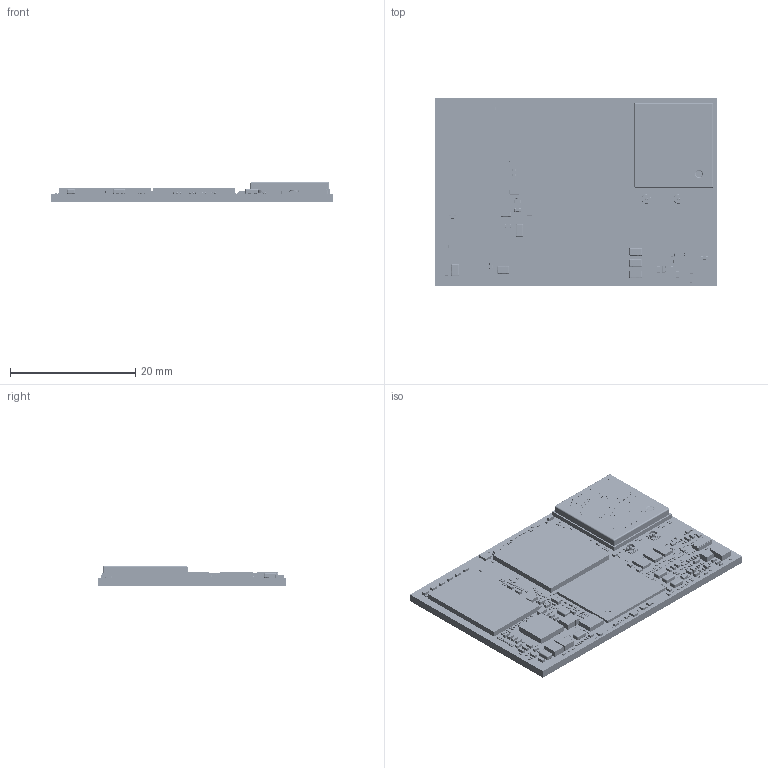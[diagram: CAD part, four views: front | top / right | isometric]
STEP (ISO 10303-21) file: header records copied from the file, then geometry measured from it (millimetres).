
FILE_DESCRIPTION(('Open CASCADE Model'),'2;1');
FILE_NAME('Open CASCADE Shape Model','2026-04-22T12:34:54',('Author'),( 'Open CASCADE'),'Open CASCADE STEP processor 7.5','Open CASCADE 7.5' ,'Unknown');
FILE_SCHEMA(('AUTOMOTIVE_DESIGN { 1 0 10303 214 1 1 1 1 }'));
Length unit declared in the file: millimetre
Products named in the file (587): PCB; Board; Open CASCADE STEP translator 7.5 2.1.1; C166; CAP0402; C165; U7; 453-00134; 940-00253; 750-03229___; 110-00693_CS-DOC-000012673(HW REV.:Q2.2); J5; c-2334884-1-a2-3d; J4; C194; CAP_CL02_SAM; C193; C192; R167; 01005_PAN; D1; 8263743216; R166; R125; Q12; CST3C_z90; Component1; Component2; Component3; Component4; R165; R164; R163; R162; R161; R160; R152; R151; R148; R146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
Assembly tree (954 placements, depth 5):
  PCB
    Board
      Open CASCADE STEP translator 7.5 2.1.1
    C166
      CAP0402
    C165
      CAP0402
    U7
      453-00134
        940-00253
          750-03229___
          110-00693_CS-DOC-000012673(HW REV.:Q2.2)
    J5
      c-2334884-1-a2-3d
    J4
      c-2334884-1-a2-3d
    C194
      CAP_CL02_SAM
    C193
      CAP_CL02_SAM
    C192
      CAP_CL02_SAM
    R167
      01005_PAN
    D1
      8263743216
    R166
      01005_PAN
    R125
      01005_PAN
    Q12
      CST3C_z90
        Component1
        Component2
        Component3
        Component4
    R165
      01005_PAN
    R164
      01005_PAN
    R163
      01005_PAN
    R162
      01005_PAN
    R161
      01005_PAN
    R160
      01005_PAN
    R152
      01005_PAN
    R151
      01005_PAN
    R148
      01005_PAN
    R146
      01005_PAN
    C191
      CAP0201 (0603)
    C190
      CAP0201 (0603)
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Bounding box: 45 x 30 x 3.15 mm (x, y, z)
Volume: 2384 mm3; surface area: 6120.9 mm2
Topology: 2081 solids, 2291 shells, 21320 faces, 49218 edges, 29414 vertices
Faces by surface type: plane 14942, cylinder 3599, bspline 2192, sphere 569, cone 12, torus 6
Full cylindrical faces by diameter (mm): 0.032 x1, 0.099 x1, 0.255 x1, 1.438 x1
Entity records: 352411 total; most frequent: CARTESIAN_POINT 97387, ORIENTED_EDGE 38702, DIRECTION 38687, EDGE_CURVE 19567, LINE 13029, VECTOR 13029, AXIS2_PLACEMENT_3D 12829, VERTEX_POINT 12600
